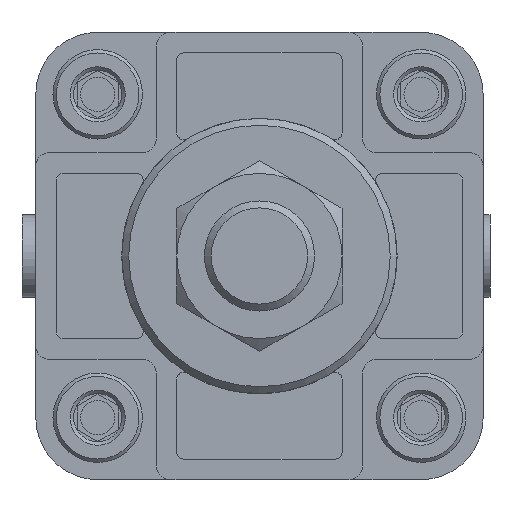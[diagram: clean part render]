
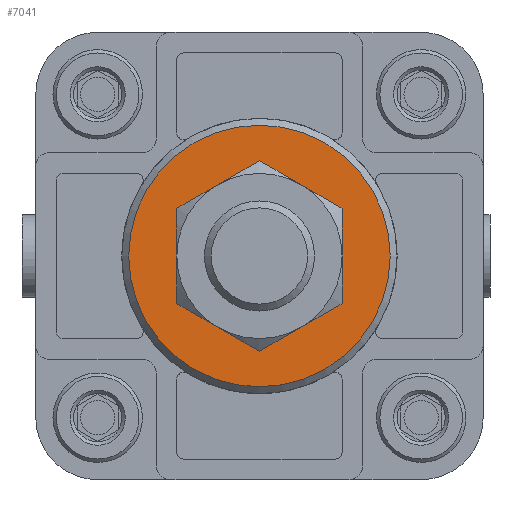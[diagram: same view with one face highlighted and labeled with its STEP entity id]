
A CAD part, front view. The second image highlights one B-rep face of the part: STEP entity #7041.
In plain terms, the highlighted planar face has unit normal (0, -1, 0).
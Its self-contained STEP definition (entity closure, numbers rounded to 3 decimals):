
#1105=ORIENTED_EDGE('',*,*,#2599,.T.);
#1106=ORIENTED_EDGE('',*,*,#2601,.T.);
#2599=EDGE_CURVE('',#3348,#3348,#3883,.T.);
#2601=EDGE_CURVE('',#3350,#3350,#3885,.F.);
#3348=VERTEX_POINT('',#9816);
#3350=VERTEX_POINT('',#9822);
#3883=CIRCLE('',#7420,11.);
#3885=CIRCLE('',#7424,19.);
#4194=EDGE_LOOP('',(#1105));
#4195=EDGE_LOOP('',(#1106));
#4682=FACE_BOUND('',#4194,.T.);
#4683=FACE_BOUND('',#4195,.T.);
#5164=PLANE('',#7423);
#7041=ADVANCED_FACE('',(#4682,#4683),#5164,.F.);
#7420=AXIS2_PLACEMENT_3D('',#9815,#8087,#8088);
#7423=AXIS2_PLACEMENT_3D('',#9820,#8093,#8094);
#7424=AXIS2_PLACEMENT_3D('',#9821,#8095,#8096);
#8087=DIRECTION('',(0.,1.,0.));
#8088=DIRECTION('',(0.,0.,1.));
#8093=DIRECTION('',(0.,1.,0.));
#8094=DIRECTION('',(0.,0.,1.));
#8095=DIRECTION('',(0.,1.,0.));
#8096=DIRECTION('',(0.,0.,1.));
#9815=CARTESIAN_POINT('',(0.,-50.,0.));
#9816=CARTESIAN_POINT('',(0.,-50.,11.));
#9820=CARTESIAN_POINT('',(0.,-50.,0.));
#9821=CARTESIAN_POINT('',(0.,-50.,0.));
#9822=CARTESIAN_POINT('',(0.,-50.,19.));
